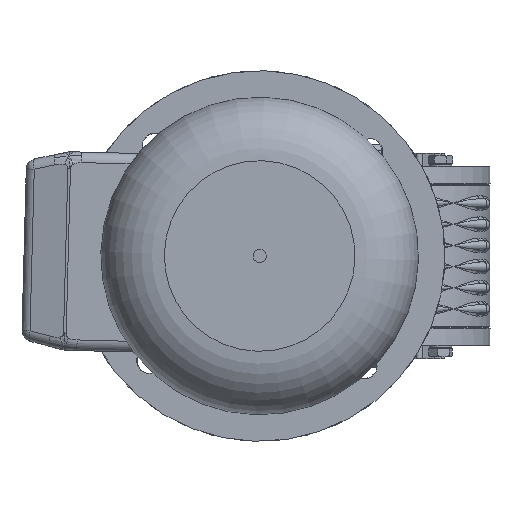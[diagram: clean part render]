
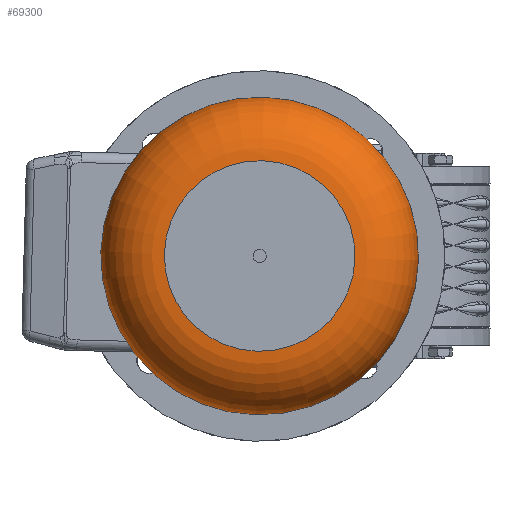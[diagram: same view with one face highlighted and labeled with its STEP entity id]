
A CAD part, left-side view. The second image highlights one B-rep face of the part: STEP entity #69300.
In plain terms, the highlighted toroidal (fillet/blend) face has major radius 36 mm and minor radius 24 mm.
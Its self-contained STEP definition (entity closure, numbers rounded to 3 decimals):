
#69273=CARTESIAN_POINT('',(236.0,0.0,0.0));
#69274=DIRECTION('',(1.0,0.0,0.0));
#69275=DIRECTION('',(0.0,0.0,-1.0));
#69276=AXIS2_PLACEMENT_3D('',#69273,#69274,#69275);
#69277=TOROIDAL_SURFACE('',#69276,36.,24.0);
#69278=CARTESIAN_POINT('',(260.,36.,0.0));
#69279=VERTEX_POINT('',#69278);
#69280=CARTESIAN_POINT('',(260.,0.0,0.0));
#69281=DIRECTION('',(1.0,0.0,0.0));
#69282=DIRECTION('',(0.0,1.0,0.0));
#69283=AXIS2_PLACEMENT_3D('',#69280,#69281,#69282);
#69284=CIRCLE('',#69283,36.);
#69285=EDGE_CURVE('',#69279,#69279,#69284,.T.);
#69286=ORIENTED_EDGE('',*,*,#69285,.F.);
#69287=EDGE_LOOP('',(#69286));
#69288=FACE_OUTER_BOUND('',#69287,.T.);
#69289=CARTESIAN_POINT('',(236.0,60.0,0.0));
#69290=VERTEX_POINT('',#69289);
#69291=CARTESIAN_POINT('',(236.0,0.0,0.0));
#69292=DIRECTION('',(1.0,0.0,0.0));
#69293=DIRECTION('',(0.0,1.0,0.0));
#69294=AXIS2_PLACEMENT_3D('',#69291,#69292,#69293);
#69295=CIRCLE('',#69294,60.0);
#69296=EDGE_CURVE('',#69290,#69290,#69295,.T.);
#69297=ORIENTED_EDGE('',*,*,#69296,.T.);
#69298=EDGE_LOOP('',(#69297));
#69299=FACE_BOUND('',#69298,.T.);
#69300=ADVANCED_FACE('',(#69288,#69299),#69277,.T.);
